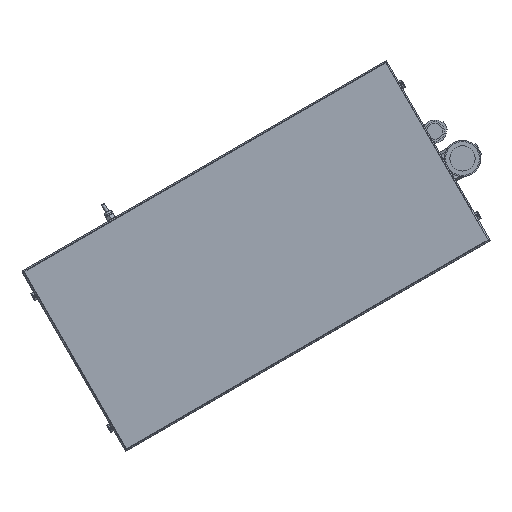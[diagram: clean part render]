
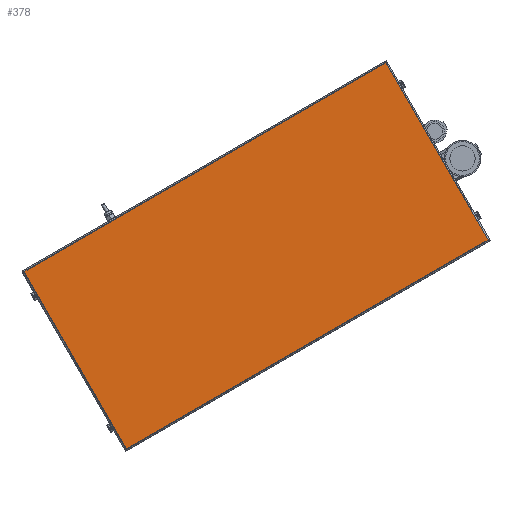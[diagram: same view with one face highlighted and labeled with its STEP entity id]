
A CAD part, top view. The second image highlights one B-rep face of the part: STEP entity #378.
In plain terms, the highlighted planar face has unit normal (0, 0, 1).
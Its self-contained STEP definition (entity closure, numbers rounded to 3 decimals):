
#378 = ADVANCED_FACE ( 'NONE', ( #60465 ), #17460, .T. ) ;
#1840 = LINE ( 'NONE', #45325, #28472 ) ;
#3935 = EDGE_CURVE ( 'NONE', #11830, #22258, #8957, .T. ) ;
#5647 = CARTESIAN_POINT ( 'NONE',  ( 384.735, 82.119, 959.5 ) ) ;
#8356 = DIRECTION ( 'NONE',  ( 0.5, -0.866, 0. ) ) ;
#8957 = LINE ( 'NONE', #46282, #18018 ) ;
#11633 = EDGE_CURVE ( 'NONE', #22258, #41484, #1840, .T. ) ;
#11654 = ORIENTED_EDGE ( 'NONE', *, *, #52310, .T. ) ;
#11830 = VERTEX_POINT ( 'NONE', #60535 ) ;
#14044 = EDGE_LOOP ( 'NONE', ( #26957, #61684, #44281, #11654 ) ) ;
#17460 = PLANE ( 'NONE',  #23542 ) ;
#17635 = DIRECTION ( 'NONE',  ( -0.866, -0.5, 0. ) ) ;
#18018 = VECTOR ( 'NONE', #8356, 1000. ) ;
#22258 = VERTEX_POINT ( 'NONE', #37487 ) ;
#23542 = AXIS2_PLACEMENT_3D ( 'NONE', #36085, #55456, #41793 ) ;
#25018 = LINE ( 'NONE', #57670, #47807 ) ;
#26957 = ORIENTED_EDGE ( 'NONE', *, *, #3935, .T. ) ;
#28472 = VECTOR ( 'NONE', #40488, 1000. ) ;
#34590 = CARTESIAN_POINT ( 'NONE',  ( 263.485, 292.131, 959.5 ) ) ;
#36085 = CARTESIAN_POINT ( 'NONE',  ( 263.668, 292.814, 959.5 ) ) ;
#37480 = LINE ( 'NONE', #61872, #53165 ) ;
#37487 = CARTESIAN_POINT ( 'NONE',  ( -44.381, -165.631, 959.5 ) ) ;
#40488 = DIRECTION ( 'NONE',  ( 0.866, 0.5, 0. ) ) ;
#41484 = VERTEX_POINT ( 'NONE', #5647 ) ;
#41793 = DIRECTION ( 'NONE',  ( -0.5, 0.866, 0. ) ) ;
#44281 = ORIENTED_EDGE ( 'NONE', *, *, #55936, .T. ) ;
#45325 = CARTESIAN_POINT ( 'NONE',  ( 386.467, 83.119, 959.5 ) ) ;
#45670 = DIRECTION ( 'NONE',  ( -0.5, 0.866, 0. ) ) ;
#46282 = CARTESIAN_POINT ( 'NONE',  ( -43.381, -167.363, 959.5 ) ) ;
#47807 = VECTOR ( 'NONE', #45670, 1000. ) ;
#52310 = EDGE_CURVE ( 'NONE', #54980, #11830, #37480, .T. ) ;
#53165 = VECTOR ( 'NONE', #17635, 1000. ) ;
#54980 = VERTEX_POINT ( 'NONE', #34590 ) ;
#55456 = DIRECTION ( 'NONE',  ( 0., 0., 1. ) ) ;
#55936 = EDGE_CURVE ( 'NONE', #41484, #54980, #25018, .T. ) ;
#57670 = CARTESIAN_POINT ( 'NONE',  ( 262.485, 293.863, 959.5 ) ) ;
#60465 = FACE_OUTER_BOUND ( 'NONE', #14044, .T. ) ;
#60535 = CARTESIAN_POINT ( 'NONE',  ( -165.631, 44.381, 959.5 ) ) ;
#61684 = ORIENTED_EDGE ( 'NONE', *, *, #11633, .T. ) ;
#61872 = CARTESIAN_POINT ( 'NONE',  ( -167.363, 43.381, 959.5 ) ) ;
